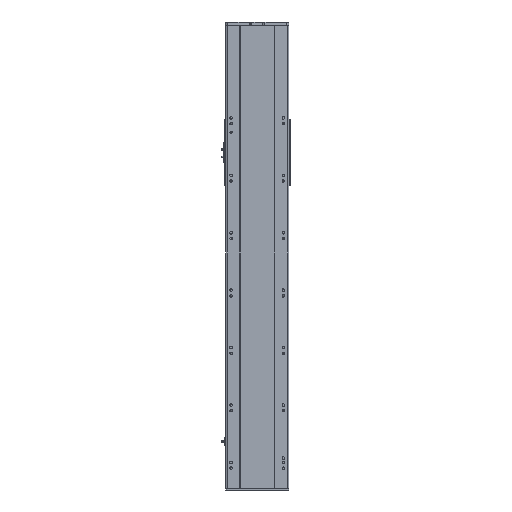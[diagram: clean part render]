
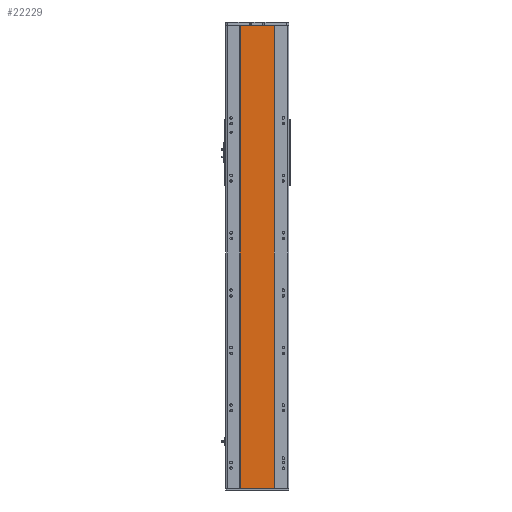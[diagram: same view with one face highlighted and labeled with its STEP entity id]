
A CAD part, front view. The second image highlights one B-rep face of the part: STEP entity #22229.
In plain terms, the highlighted planar face has unit normal (0, -1, 0).
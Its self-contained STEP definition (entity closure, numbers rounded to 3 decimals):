
#46 = EDGE_LOOP ( 'NONE', ( #37298, #12733, #24781, #15767 ) ) ;
#811 = LINE ( 'NONE', #12143, #3154 ) ;
#899 = EDGE_CURVE ( 'NONE', #26628, #34339, #7008, .T. ) ;
#2512 = EDGE_CURVE ( 'NONE', #34339, #37062, #811, .T. ) ;
#3017 = CARTESIAN_POINT ( 'NONE',  ( -59., 1., 805.5 ) ) ;
#3154 = VECTOR ( 'NONE', #27096, 1000. ) ;
#3268 = DIRECTION ( 'NONE',  ( -1., 0., 0. ) ) ;
#4185 = DIRECTION ( 'NONE',  ( 0., 0., -1. ) ) ;
#7008 = LINE ( 'NONE', #22253, #25570 ) ;
#8026 = VECTOR ( 'NONE', #33516, 1000. ) ;
#12143 = CARTESIAN_POINT ( 'NONE',  ( -59., 1., -805.5 ) ) ;
#12733 = ORIENTED_EDGE ( 'NONE', *, *, #26322, .F. ) ;
#14939 = PLANE ( 'NONE',  #36419 ) ;
#14970 = LINE ( 'NONE', #15103, #8026 ) ;
#15103 = CARTESIAN_POINT ( 'NONE',  ( -59., 1., 805.5 ) ) ;
#15634 = FACE_OUTER_BOUND ( 'NONE', #46, .T. ) ;
#15767 = ORIENTED_EDGE ( 'NONE', *, *, #899, .T. ) ;
#18275 = CARTESIAN_POINT ( 'NONE',  ( 59., 1., 805.5 ) ) ;
#20709 = CARTESIAN_POINT ( 'NONE',  ( 59., 1., -805.5 ) ) ;
#21352 = DIRECTION ( 'NONE',  ( 0., 1., 0. ) ) ;
#22229 = ADVANCED_FACE ( 'NONE', ( #15634 ), #14939, .F. ) ;
#22253 = CARTESIAN_POINT ( 'NONE',  ( -59., 1., 805.5 ) ) ;
#24710 = VECTOR ( 'NONE', #25249, 1000. ) ;
#24781 = ORIENTED_EDGE ( 'NONE', *, *, #25855, .F. ) ;
#25249 = DIRECTION ( 'NONE',  ( 0., 0., -1. ) ) ;
#25570 = VECTOR ( 'NONE', #4185, 1000. ) ;
#25628 = LINE ( 'NONE', #18275, #24710 ) ;
#25855 = EDGE_CURVE ( 'NONE', #26628, #29333, #14970, .T. ) ;
#26322 = EDGE_CURVE ( 'NONE', #29333, #37062, #25628, .T. ) ;
#26628 = VERTEX_POINT ( 'NONE', #29403 ) ;
#27096 = DIRECTION ( 'NONE',  ( 1., 0., 0. ) ) ;
#28796 = CARTESIAN_POINT ( 'NONE',  ( -59., 1., -805.5 ) ) ;
#29333 = VERTEX_POINT ( 'NONE', #33711 ) ;
#29403 = CARTESIAN_POINT ( 'NONE',  ( -59., 1., 805.5 ) ) ;
#33516 = DIRECTION ( 'NONE',  ( 1., 0., 0. ) ) ;
#33711 = CARTESIAN_POINT ( 'NONE',  ( 59., 1., 805.5 ) ) ;
#34339 = VERTEX_POINT ( 'NONE', #28796 ) ;
#36419 = AXIS2_PLACEMENT_3D ( 'NONE', #3017, #21352, #3268 ) ;
#37062 = VERTEX_POINT ( 'NONE', #20709 ) ;
#37298 = ORIENTED_EDGE ( 'NONE', *, *, #2512, .T. ) ;
